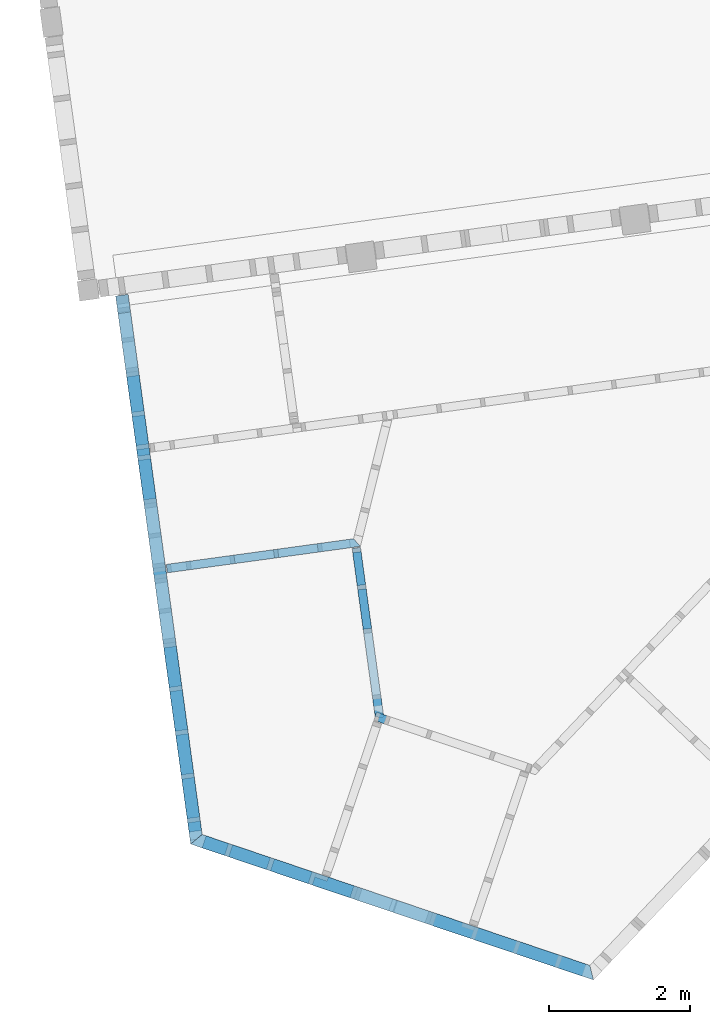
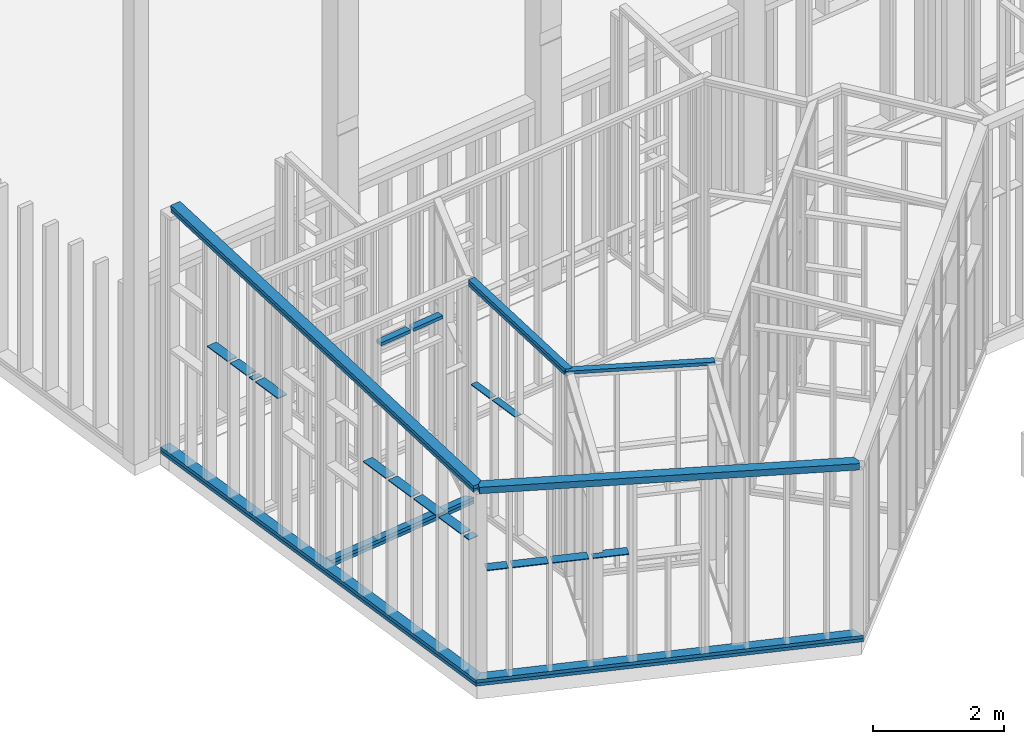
# One storey, part 16 of 24: 17 beams.
"""IFC2X3 building model written with IfcOpenShell, lengths in metres."""

from ifc_helpers import new_model, entity, si_unit, converted_unit, derived_unit, money_unit, direction, frame, frame_2d, origin_with_axes, place, context, subcontext, project, spatial, rectangle, extrude, boolean, clip, halfspace, faceted_brep, material, type_object, element, save


model = new_model("IFC2X3")

# Units and contexts
model_context = context("Model", 3, precision=1e-05, world=origin_with_axes(), true_north=direction((0.0, 1.0)))
body_context = subcontext(model_context, "Body", "Model", "MODEL_VIEW")
ifc_project = project(units=[si_unit("LENGTHUNIT", "METRE"), si_unit("AREAUNIT", "SQUARE_METRE"), si_unit("VOLUMEUNIT", "CUBIC_METRE"), converted_unit("PLANEANGLEUNIT", "DEGREE", entity("IfcPlaneAngleMeasure", 0.0174532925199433), si_unit("PLANEANGLEUNIT", "RADIAN"), dimensions=[0, 0, 0, 0, 0, 0, 0]), money_unit("EUR"), converted_unit("TIMEUNIT", "Year", entity("IfcTimeMeasure", 31557600.0), si_unit("TIMEUNIT", "SECOND"), dimensions=[0, 0, 1, 0, 0, 0, 0]), si_unit("MASSUNIT", "GRAM", prefix="KILO"), si_unit("THERMODYNAMICTEMPERATUREUNIT", "DEGREE_CELSIUS"), si_unit("LUMINOUSINTENSITYUNIT", "LUMEN"), si_unit("ENERGYUNIT", "JOULE", prefix="MEGA"), derived_unit("THERMALCONDUCTANCEUNIT", [(si_unit("POWERUNIT", "WATT"), 1), (si_unit("LENGTHUNIT", "METRE"), -1), (si_unit("THERMODYNAMICTEMPERATUREUNIT", "KELVIN"), -1)]), derived_unit("SPECIFICHEATCAPACITYUNIT", [(si_unit("ENERGYUNIT", "JOULE"), 1), (si_unit("MASSUNIT", "GRAM", prefix="KILO"), -1), (si_unit("THERMODYNAMICTEMPERATUREUNIT", "KELVIN"), -1)]), derived_unit("MASSDENSITYUNIT", [(si_unit("MASSUNIT", "GRAM", prefix="KILO"), 1), (si_unit("VOLUMEUNIT", "CUBIC_METRE"), -1)])], contexts=[model_context])

# Site, building, storey
site_placement = place(None, origin_with_axes())
site = spatial("IfcSite", under=ifc_project, at=site_placement, Name="Gelände", CompositionType="ELEMENT")
building_placement = place(site_placement, origin_with_axes())
building = spatial("IfcBuilding", under=site, at=building_placement, Name="Gebäude", CompositionType="ELEMENT")
storey_placement = place(building_placement, origin_with_axes())
storey = spatial("IfcBuildingStorey", under=building, at=storey_placement, Name="EG", CompositionType="ELEMENT", Elevation=0.0)

# Beams
ifc_material_1 = material(Name="Bauholz")
beam_type_1 = type_object("IfcBeamType", Name="Bauholz 120 x 60", PredefinedType="NOTDEFINED")
beam_1_placement = place(storey_placement, frame((90.38992757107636, -154.6670952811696, 4.059430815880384), z_axis=(0.0, 0.0, 1.0), x_axis=(-0.99074844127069, -0.1357111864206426, 0.0)))
element("IfcBeam", 1, at=beam_1_placement, inside=storey, type_object=beam_type_1, material=ifc_material_1, Name="Unterzug-021", context=body_context, shape_type="CSG", body=[
    boolean("DIFFERENCE", clip(clip(extrude(rectangle(XDim=0.06, YDim=0.12, at=frame_2d((-0.03, 0.0), x_axis=(1.0, 0.0))), frame((0.0, -0.02361845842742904, 0.003319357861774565), z_axis=(0.0, 0.9902680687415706, -0.1391731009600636), x_axis=(0.0, 0.1391731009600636, 0.9902680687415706)), (0.0, 0.0, 1.0), 2.505467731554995), halfspace(frame((0.0, 0.0, 0.0), z_axis=(0.0, 1.0, 0.0), x_axis=(0.0, 0.0, 1.0)), True)), halfspace(frame((0.0, 2.42759628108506, 0.0), z_axis=(0.0, -1.0, 0.0), x_axis=(0.0, 0.0, -1.0)), True)), faceted_brep([(-0.06000000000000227, 2.390431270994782, -0.3965428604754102), (-0.06000000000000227, 2.390431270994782, -0.3435029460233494), (-0.06000000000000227, 2.427596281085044, -0.3445392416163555), (-0.06000000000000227, 2.427596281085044, -0.4017660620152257), (0.03214141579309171, 2.34459069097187, -0.390100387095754), (0.02918027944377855, 2.346063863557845, -0.3372675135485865), (0.0, 2.427596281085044, -0.3411764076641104), (0.05590570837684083, 2.399783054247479, -0.3372675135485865), (0.06000000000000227, 2.427596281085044, -0.3411764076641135), (0.06000000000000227, 2.427596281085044, -0.4017660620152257), (0.06000000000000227, 2.393554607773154, -0.3969818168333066), (0.05759040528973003, 2.394753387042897, -0.3971502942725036), (0.06000000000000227, 2.399596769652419, -0.3971502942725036), (0.06000000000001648, 2.40785334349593, -0.338401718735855)], [[[0, 1, 2, 3]], [[1, 0, 4, 5]], [[6, 2, 1, 5, 7]], [[2, 6, 8, 9, 3]], [[4, 0, 3, 9, 10, 11]], [[4, 11, 12, 13, 7, 5]], [[7, 13, 8, 6]], [[12, 10, 9, 8, 13]], [[11, 10, 12]]])),
])
beam_2_placement = place(storey_placement, frame((90.39914309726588, -154.591619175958, -0.04300000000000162), z_axis=(0.0, 0.0, 1.0), x_axis=(-0.1357111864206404, 0.9907484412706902, 0.0)))
element("IfcBeam", 2, at=beam_2_placement, inside=storey, type_object=beam_type_1, material=ifc_material_1, Name="Unterzug-021", context=body_context, shape_type="CSG", body=[
    boolean("DIFFERENCE", extrude(rectangle(XDim=0.06, YDim=0.12, at=frame_2d((-0.03, 0.0), x_axis=(1.0, 0.0))), frame((0.0, -0.04064675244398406, 0.0), z_axis=(0.0, 1.0, 0.0), x_axis=(0.0, 0.0, 1.0)), (0.0, 0.0, 1.0), 2.758548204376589), faceted_brep([(0.06000000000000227, 0.04062676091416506, 0.0), (-0.05999999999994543, -0.04062675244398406, 0.0), (-0.06000000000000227, -0.04064675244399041, 0.0), (0.06000000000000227, -0.0406467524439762, 0.0), (-0.05999999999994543, -0.04062675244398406, -0.06), (0.06000000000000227, 0.04062676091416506, -0.06), (-0.06000000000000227, -0.04064675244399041, -0.06), (0.06000000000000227, -0.0406467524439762, -0.06)], [[[0, 1, 2, 3]], [[4, 1, 0, 5]], [[1, 4, 6, 2]], [[6, 7, 3, 2]], [[5, 0, 3, 7]], [[4, 5, 7, 6]]])),
])
beam_3_placement = place(storey_placement, frame((90.65844057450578, -157.0516642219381, 3.722280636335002), z_axis=(0.0, 0.0, 1.0), x_axis=(-0.3197980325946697, -0.9474857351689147, 0.0)))
element("IfcBeam", 3, at=beam_3_placement, inside=storey, type_object=beam_type_1, material=ifc_material_1, Name="Unterzug-021", context=body_context, shape_type="CSG", body=[
    boolean("DIFFERENCE", clip(clip(extrude(rectangle(XDim=0.06, YDim=0.12, at=frame_2d((-0.03, 0.0), x_axis=(1.0, 0.0))), frame((0.0, -0.01060285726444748, 0.0006637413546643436), z_axis=(0.0, 0.9980463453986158, -0.06247793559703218), x_axis=(0.0, 0.06247793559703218, 0.9980463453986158)), (0.0, 0.0, 1.0), 2.346247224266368), halfspace(frame((0.0, 0.0, 0.0), z_axis=(0.0, 1.0, 0.0), x_axis=(0.0, 0.0, 1.0)), True)), halfspace(frame((0.0, 2.320457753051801, 0.0), z_axis=(0.0, -1.0, 0.0), x_axis=(0.0, 0.0, -1.0)), True)), faceted_brep([(0.05999999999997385, 0.001874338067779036, -0.0001173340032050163), (-0.05999999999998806, 0.001874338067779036, -0.0001173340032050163), (-0.06000000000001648, 0.0, 0.0), (0.06000000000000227, 0.0, 0.0), (-0.05999999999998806, 0.0, -0.03005872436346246), (0.06000000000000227, 0.0, -0.03005872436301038)], [[[0, 1, 2, 3]], [[4, 1, 0, 5]], [[1, 4, 2]], [[4, 5, 3, 2]], [[5, 0, 3]]])),
])
beam_4_placement = place(storey_placement, frame((89.84384641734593, -154.6676828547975, 3.593823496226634), z_axis=(0.0, 0.0, 1.0), x_axis=(-0.1357111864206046, 0.9907484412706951, 0.0)))
element("IfcBeam", 4, at=beam_4_placement, inside=storey, type_object=beam_type_1, material=ifc_material_1, Name="Unterzug-021", context=body_context, shape_type="CSG", body=[
    boolean("DIFFERENCE", extrude(rectangle(XDim=0.06, YDim=0.12, at=frame_2d((-0.03, 0.0), x_axis=(1.0, 0.0))), frame((0.0, 0.0, 0.0), z_axis=(0.0, 1.0, 0.0), x_axis=(0.0, 0.0, 1.0)), (0.0, 0.0, 1.0), 1.190000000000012), faceted_brep([(-0.060000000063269, 0.5649999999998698, -0.06000000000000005), (-0.060000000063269, 0.5649999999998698, 0.0), (-0.06000000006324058, 0.6249999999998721, 0.0), (-0.06000000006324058, 0.6249999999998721, -0.06000000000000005), (0.05999999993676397, 0.5649999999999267, 0.0), (0.05999999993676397, 0.5649999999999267, -0.06000000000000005), (0.05999999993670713, 0.6249999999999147, 0.0), (0.05999999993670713, 0.6249999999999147, -0.06000000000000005)], [[[0, 1, 2, 3]], [[4, 1, 0, 5]], [[1, 4, 6, 2]], [[7, 3, 2, 6]], [[5, 0, 3, 7]], [[4, 5, 7, 6]]])),
])
beam_type_2 = type_object("IfcBeamType", Name="Bauholz 120 x 15", PredefinedType="NOTDEFINED")
beam_5_placement = place(storey_placement, frame((90.3982701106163, -154.7279993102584, 2.15), z_axis=(0.0, 0.0, 1.0), x_axis=(-0.9907484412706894, -0.1357111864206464, 0.0)))
element("IfcBeam", 5, at=beam_5_placement, inside=storey, type_object=beam_type_2, material=ifc_material_1, Name="Unterzug-021", context=body_context, shape_type="CSG", body=[
    boolean("DIFFERENCE", extrude(rectangle(XDim=0.015, YDim=0.12, at=frame_2d((-0.0075, 0.0), x_axis=(1.0, 0.0))), frame((0.0, 0.0, 0.0), z_axis=(0.0, 1.0, 0.0), x_axis=(0.0, 0.0, 1.0)), (0.0, 0.0, 1.0), 1.095387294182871), faceted_brep([(-0.0600000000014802, 0.4703872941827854, -0.01500000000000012), (-0.0600000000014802, 0.4703872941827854, 0.0), (-0.0600000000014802, 0.5303872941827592, 0.0), (-0.0600000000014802, 0.5303872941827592, -0.01499999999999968), (0.05999999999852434, 0.4703872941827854, 0.0), (0.05999999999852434, 0.4703872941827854, -0.01499999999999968), (0.05999999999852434, 0.5303872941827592, 0.0), (0.05999999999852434, 0.5303872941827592, -0.01500000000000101)], [[[0, 1, 2, 3]], [[4, 1, 0, 5]], [[1, 4, 6, 2]], [[7, 3, 2, 6]], [[5, 0, 3, 7]], [[4, 5, 7, 6]]])),
])
ifc_material_2 = material(Name="Holz, Bauholz")
beam_type_3 = type_object("IfcBeamType", Name="Holz, Bauholz 120 x 60", PredefinedType="NOTDEFINED")
beam_6_placement = place(storey_placement, frame((90.39914309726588, -154.591619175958, -0.1030000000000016), z_axis=(0.0, 0.0, 1.0), x_axis=(-0.1357111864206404, 0.9907484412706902, 0.0)))
element("IfcBeam", 6, at=beam_6_placement, inside=storey, type_object=beam_type_3, material=ifc_material_2, Name="Unterzug-021", context=body_context, shape_type="CSG", body=[
    boolean("DIFFERENCE", extrude(rectangle(XDim=0.06, YDim=0.12, at=frame_2d((-0.03, 0.0), x_axis=(1.0, 0.0))), frame((0.0, -0.04064675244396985, 0.0), z_axis=(0.0, 1.0, 0.0), x_axis=(0.0, 0.0, 1.0)), (0.0, 0.0, 1.0), 2.758548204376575), faceted_brep([(0.06000000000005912, 0.04062676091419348, 0.0), (-0.05999999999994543, -0.04062675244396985, 0.0), (-0.06000000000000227, -0.04064675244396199, 0.0), (0.06000000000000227, -0.04064675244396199, 0.0), (-0.05999999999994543, -0.04062675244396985, -0.06), (0.06000000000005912, 0.04062676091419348, -0.06), (-0.06000000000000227, -0.04064675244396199, -0.06), (0.06000000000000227, -0.04064675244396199, -0.06)], [[[0, 1, 2, 3]], [[4, 1, 0, 5]], [[1, 4, 6, 2]], [[6, 7, 3, 2]], [[5, 0, 3, 7]], [[4, 5, 7, 6]]])),
])
beam_7_placement = place(storey_placement, frame((90.39012743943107, -154.6685544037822, 3.998634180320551), z_axis=(0.0, 0.0, 1.0), x_axis=(-0.9907484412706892, -0.1357111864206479, 0.0)))
element("IfcBeam", 7, at=beam_7_placement, inside=storey, type_object=beam_type_3, material=ifc_material_2, Name="Unterzug-021", context=body_context, shape_type="CSG", body=[
    boolean("DIFFERENCE", clip(clip(extrude(rectangle(XDim=0.06, YDim=0.12, at=frame_2d((-0.03, 0.0), x_axis=(1.0, 0.0))), frame((0.0, -0.02361845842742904, 0.003319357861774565), z_axis=(0.0, 0.9902680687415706, -0.1391731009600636), x_axis=(0.0, 0.1391731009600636, 0.9902680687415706)), (0.0, 0.0, 1.0), 2.493434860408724), halfspace(frame((0.0, 0.0, 0.0), z_axis=(0.0, 1.0, 0.0), x_axis=(0.0, 0.0, 1.0)), True)), halfspace(frame((0.0, 2.421932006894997, 0.0), z_axis=(0.0, -1.0, 0.0), x_axis=(0.0, 0.0, -1.0)), True)), faceted_brep([(-0.05999999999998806, 2.388958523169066, -0.396335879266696), (-0.05999999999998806, 2.388958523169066, -0.3357462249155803), (-0.05999999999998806, 2.421932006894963, -0.3403803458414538), (-0.06000000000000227, 2.421932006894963, -0.400970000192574), (0.03214141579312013, 2.343117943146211, -0.3293037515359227), (0.03552404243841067, 2.341435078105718, -0.3896568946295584), (0.06000000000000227, 2.398030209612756, -0.3370211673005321), (0.06000000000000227, 2.421932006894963, -0.3403803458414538), (0.06000000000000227, 2.421932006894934, -0.3971349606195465), (-0.008425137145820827, 2.421932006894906, -0.4009700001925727), (0.0592751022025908, 2.388250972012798, -0.3962364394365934), (0.0600000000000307, 2.389708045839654, -0.3962364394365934)], [[[0, 1, 2, 3]], [[4, 1, 0, 5]], [[4, 6, 7, 2, 1]], [[8, 9, 3, 2, 7]], [[5, 0, 3, 9, 10]], [[6, 4, 5, 10, 11]], [[11, 8, 7, 6]], [[10, 9, 8, 11]]])),
])
beam_type_4 = type_object("IfcBeamType", Name="Bauholz 180 x 120", PredefinedType="NOTDEFINED")
beam_8_placement = place(storey_placement, frame((88.12547573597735, -158.7936743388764, 3.528033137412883), z_axis=(0.0, 0.0, 1.0), x_axis=(-0.3197975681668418, -0.947485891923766, 0.0)))
element("IfcBeam", 8, at=beam_8_placement, inside=storey, type_object=beam_type_4, material=ifc_material_1, Name="Unterzug-035", context=body_context, shape_type="CSG", body=[
    boolean("DIFFERENCE", boolean("DIFFERENCE", clip(clip(extrude(rectangle(XDim=0.12, YDim=0.18, at=frame_2d((-0.06, 0.0), x_axis=(1.0, 0.0))), frame((0.0, -0.0482701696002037, 0.003021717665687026), z_axis=(0.0, 0.998046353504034, -0.06247780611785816), x_axis=(0.0, 0.06247780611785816, 0.998046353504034)), (0.0, 0.0, 1.0), 6.033290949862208), halfspace(frame((0.0, 0.0, 0.0), z_axis=(0.0, 1.0, 0.0), x_axis=(0.0, 0.0, 1.0)), True)), halfspace(frame((0.0, 5.907932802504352, 0.0), z_axis=(0.0, -1.0, 0.0), x_axis=(0.0, 0.0, -1.0)), True)), faceted_brep([(0.01456642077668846, 0.0, 0.0), (-0.09000000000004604, 0.05574754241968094, -0.003489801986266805), (-0.08999999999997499, 0.0, 0.0), (-0.09000000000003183, 0.04021593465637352, -0.1227524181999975), (-0.01456642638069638, 0.0, -0.1202348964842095), (-0.08999999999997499, 0.0, -0.1202348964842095)], [[[0, 1, 2]], [[3, 1, 0, 4]], [[1, 3, 5, 2]], [[4, 0, 2, 5]], [[3, 4, 5]]])), faceted_brep([(0.0015697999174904, 5.907932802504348, -0.3698372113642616), (-0.001613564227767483, 5.907932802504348, -0.4900721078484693), (-0.08999999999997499, 5.907932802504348, -0.4900721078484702), (-0.0899999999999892, 5.907932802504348, -0.3698372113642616), (-0.09000000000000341, 5.852184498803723, -0.4865822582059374), (-0.08999999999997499, 5.85017664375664, -0.3662216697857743)], [[[0, 1, 2, 3]], [[4, 1, 0, 5]], [[1, 4, 2]], [[4, 5, 3, 2]], [[5, 0, 3]]])),
])
beam_type_5 = type_object("IfcBeamType", Name="Holz, Bauholz 180 x 60", PredefinedType="NOTDEFINED")
beam_9_placement = place(storey_placement, frame((87.10410828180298, -151.3372646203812, 4.585748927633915), z_axis=(0.0, 0.0, 1.0), x_axis=(-0.9907484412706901, -0.1357111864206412, 0.0)))
element("IfcBeam", 9, at=beam_9_placement, inside=storey, type_object=beam_type_5, material=ifc_material_2, Name="Unterzug-035", context=body_context, shape_type="CSG", body=[
    boolean("DIFFERENCE", clip(clip(extrude(rectangle(XDim=0.06, YDim=0.18, at=frame_2d((-0.03, 0.0), x_axis=(1.0, 0.0))), frame((0.0, -0.03542769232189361, 0.004979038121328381), z_axis=(0.0, 0.9902680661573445, -0.1391731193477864), x_axis=(0.0, 0.1391731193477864, 0.9902680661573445)), (0.0, 0.0, 1.0), 7.70724865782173), halfspace(frame((0.0, 0.0, 0.0), z_axis=(0.0, 1.0, 0.0), x_axis=(0.0, 0.0, 1.0)), True)), halfspace(frame((0.0, 7.526037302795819, 0.0), z_axis=(0.0, -1.0, 0.0), x_axis=(0.0, 0.0, -1.0)), True)), faceted_brep([(-0.09000000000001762, 7.463500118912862, -1.109516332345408), (-0.0899999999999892, 7.471850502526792, -1.050100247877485), (-0.0899999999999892, 7.526037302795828, -1.057715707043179), (-0.0899999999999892, 7.5260373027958, -1.118305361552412), (-0.011936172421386, 7.526037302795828, -1.057715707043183), (9.374821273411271e-05, 7.5260373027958, -1.118305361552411)], [[[0, 1, 2, 3]], [[4, 1, 0, 5]], [[1, 4, 2]], [[4, 5, 3, 2]], [[5, 0, 3]]])),
])
beam_10_placement = place(storey_placement, frame((88.12547229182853, -158.793672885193, -0.1030000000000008), z_axis=(0.0, 0.0, 1.0), x_axis=(-0.3197976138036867, -0.9474858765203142, 0.0)))
element("IfcBeam", 10, at=beam_10_placement, inside=storey, type_object=beam_type_5, material=ifc_material_2, Name="Unterzug-021", context=body_context, shape_type="CSG", body=[
    boolean("DIFFERENCE", boolean("DIFFERENCE", extrude(rectangle(XDim=0.06, YDim=0.18, at=frame_2d((-0.03, 0.0), x_axis=(1.0, 0.0))), frame((0.0, -0.0557675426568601, 0.0), z_axis=(0.0, 1.0, 0.0), x_axis=(0.0, 0.0, 1.0)), (0.0, 0.0, 1.0), 6.021307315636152), faceted_brep([(0.09000000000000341, -0.05574754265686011, 0.0), (-0.09000000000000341, 0.05574754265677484, 0.0), (-0.09000000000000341, -0.05576754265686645, 0.0), (0.0899999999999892, -0.05576754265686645, 0.0), (-0.09000000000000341, 0.05574754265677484, -0.05999999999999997), (0.09000000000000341, -0.05574754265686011, -0.06000000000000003), (-0.09000000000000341, -0.05576754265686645, -0.06), (0.0899999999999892, -0.05576754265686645, -0.06)], [[[0, 1, 2, 3]], [[4, 1, 0, 5]], [[1, 4, 6, 2]], [[6, 7, 3, 2]], [[5, 0, 3, 7]], [[4, 5, 7, 6]]])), faceted_brep([(-0.09000000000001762, 5.850353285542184, 0.0), (0.09000000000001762, 5.965519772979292, 0.0), (0.09000000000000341, 5.965539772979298, 0.0), (-0.09000000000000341, 5.965539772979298, 0.0), (0.09000000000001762, 5.965519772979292, -0.06000000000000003), (-0.09000000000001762, 5.850353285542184, -0.05999999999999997), (0.09000000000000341, 5.965539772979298, -0.06), (-0.09000000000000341, 5.965539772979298, -0.06)], [[[0, 1, 2, 3]], [[4, 1, 0, 5]], [[1, 4, 6, 2]], [[2, 6, 7, 3]], [[5, 0, 3, 7]], [[4, 5, 7, 6]]])),
])
beam_11_placement = place(storey_placement, frame((87.06994476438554, -151.087880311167, -0.1030000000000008), z_axis=(0.0, 0.0, 1.0), x_axis=(-0.9907484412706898, -0.135711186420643, 0.0)))
element("IfcBeam", 11, at=beam_11_placement, inside=storey, type_object=beam_type_5, material=ifc_material_2, Name="Unterzug-021", context=body_context, shape_type="CSG", body=[
    boolean("DIFFERENCE", extrude(rectangle(XDim=0.06, YDim=0.18, at=frame_2d((-0.03, 0.0), x_axis=(1.0, 0.0))), frame((0.0, 0.0, 0.0), z_axis=(0.0, 1.0, 0.0), x_axis=(0.0, 0.0, 1.0)), (0.0, 0.0, 1.0), 7.833516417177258), faceted_brep([(-0.09000000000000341, 7.722001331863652, -0.05999999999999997), (-0.09000000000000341, 7.722001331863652, 0.0), (-0.09000000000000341, 7.833516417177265, 0.0), (-0.09000000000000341, 7.833516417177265, -0.06), (0.09000000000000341, 7.833496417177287, 0.0), (0.09000000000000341, 7.833496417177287, -0.06000000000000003), (0.09000000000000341, 7.833516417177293, 0.0), (0.09000000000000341, 7.833516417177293, -0.06)], [[[0, 1, 2, 3]], [[4, 1, 0, 5]], [[1, 4, 6, 2]], [[6, 7, 3, 2]], [[5, 0, 3, 7]], [[4, 5, 7, 6]]])),
])
beam_type_6 = type_object("IfcBeamType", Name="Bauholz 180 x 60", PredefinedType="NOTDEFINED")
beam_12_placement = place(storey_placement, frame((88.12547229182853, -158.793672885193, -0.04300000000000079), z_axis=(0.0, 0.0, 1.0), x_axis=(-0.3197976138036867, -0.9474858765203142, 0.0)))
element("IfcBeam", 12, at=beam_12_placement, inside=storey, type_object=beam_type_6, material=ifc_material_1, Name="Unterzug-021", context=body_context, shape_type="CSG", body=[
    boolean("DIFFERENCE", boolean("DIFFERENCE", extrude(rectangle(XDim=0.06, YDim=0.18, at=frame_2d((-0.03, 0.0), x_axis=(1.0, 0.0))), frame((0.0, -0.0557675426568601, 0.0), z_axis=(0.0, 1.0, 0.0), x_axis=(0.0, 0.0, 1.0)), (0.0, 0.0, 1.0), 6.021307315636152), faceted_brep([(0.09000000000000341, -0.05574754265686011, 0.0), (-0.09000000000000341, 0.05574754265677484, 0.0), (-0.09000000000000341, -0.05576754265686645, 0.0), (0.0899999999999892, -0.05576754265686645, 0.0), (-0.09000000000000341, 0.05574754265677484, -0.05999999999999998), (0.09000000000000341, -0.05574754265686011, -0.06000000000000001), (-0.09000000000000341, -0.05576754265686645, -0.06), (0.0899999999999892, -0.05576754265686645, -0.06)], [[[0, 1, 2, 3]], [[4, 1, 0, 5]], [[1, 4, 6, 2]], [[6, 7, 3, 2]], [[5, 0, 3, 7]], [[4, 5, 7, 6]]])), faceted_brep([(-0.09000000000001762, 5.850353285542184, 0.0), (0.09000000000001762, 5.965519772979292, 0.0), (0.09000000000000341, 5.965539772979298, 0.0), (-0.09000000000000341, 5.965539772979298, 0.0), (0.09000000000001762, 5.965519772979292, -0.06000000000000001), (-0.09000000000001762, 5.850353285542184, -0.05999999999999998), (0.09000000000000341, 5.965539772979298, -0.06), (-0.09000000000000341, 5.965539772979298, -0.06)], [[[0, 1, 2, 3]], [[4, 1, 0, 5]], [[1, 4, 6, 2]], [[2, 6, 7, 3]], [[5, 0, 3, 7]], [[4, 5, 7, 6]]])),
])
beam_13_placement = place(storey_placement, frame((87.06994476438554, -151.087880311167, -0.04300000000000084), z_axis=(0.0, 0.0, 1.0), x_axis=(-0.99074844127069, -0.1357111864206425, 0.0)))
element("IfcBeam", 13, at=beam_13_placement, inside=storey, type_object=beam_type_6, material=ifc_material_1, Name="Unterzug-021", context=body_context, shape_type="CSG", body=[
    boolean("DIFFERENCE", extrude(rectangle(XDim=0.06, YDim=0.18, at=frame_2d((-0.03, 0.0), x_axis=(1.0, 0.0))), frame((0.0, 0.0, 0.0), z_axis=(0.0, 1.0, 0.0), x_axis=(0.0, 0.0, 1.0)), (0.0, 0.0, 1.0), 7.83351641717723), faceted_brep([(-0.08999999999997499, 7.722001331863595, -0.05999999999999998), (-0.08999999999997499, 7.722001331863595, 0.0), (-0.09000000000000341, 7.833516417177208, 0.0), (-0.09000000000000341, 7.833516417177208, -0.06), (0.09000000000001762, 7.83349641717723, 0.0), (0.09000000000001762, 7.83349641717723, -0.06000000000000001), (0.09000000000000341, 7.833516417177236, 0.0), (0.09000000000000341, 7.833516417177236, -0.06)], [[[0, 1, 2, 3]], [[4, 1, 0, 5]], [[1, 4, 6, 2]], [[6, 7, 3, 2]], [[5, 0, 3, 7]], [[4, 5, 7, 6]]])),
])
ifc_material_3 = material(Name="Holz, Bauholz-hart")
beam_type_7 = type_object("IfcBeamType", Name="Holz, Bauholz-hart 180 x 60", PredefinedType="NOTDEFINED")
beam_14_placement = place(storey_placement, frame((87.10428287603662, -151.3385392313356, 4.524978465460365), z_axis=(0.0, 0.0, 1.0), x_axis=(-0.99074844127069, -0.1357111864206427, 0.0)))
element("IfcBeam", 14, at=beam_14_placement, inside=storey, type_object=beam_type_7, material=ifc_material_3, Name="Unterzug-035", context=body_context, shape_type="CSG", body=[
    boolean("DIFFERENCE", clip(clip(extrude(rectangle(XDim=0.06, YDim=0.18, at=frame_2d((-0.03, 0.0), x_axis=(1.0, 0.0))), frame((0.0, -0.03542769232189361, 0.004979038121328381), z_axis=(0.0, 0.9902680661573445, -0.1391731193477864), x_axis=(0.0, 0.1391731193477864, 0.9902680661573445)), (0.0, 0.0, 1.0), 7.705949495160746), halfspace(frame((0.0, 0.0, 0.0), z_axis=(0.0, 1.0, 0.0), x_axis=(0.0, 0.0, 1.0)), True)), halfspace(frame((0.0, 7.524750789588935, 0.0), z_axis=(0.0, -1.0, 0.0), x_axis=(0.0, 0.0, -1.0)), True)), faceted_brep([(-0.0899999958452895, 7.469003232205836, -1.110289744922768), (-0.08999999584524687, 7.469003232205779, -1.049700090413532), (-0.0899999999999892, 7.524750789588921, -1.057534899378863), (-0.0899999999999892, 7.524750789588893, -1.118124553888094), (-0.08430226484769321, 7.466168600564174, -1.049301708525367), (-0.07729477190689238, 7.462682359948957, -1.109401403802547), (9.374821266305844e-05, 7.524750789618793, -1.057534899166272), (0.06226549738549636, 7.524750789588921, -1.113690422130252), (0.04656907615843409, 7.524750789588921, -1.118124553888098), (0.01180481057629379, 7.524750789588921, -1.116518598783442), (0.04656907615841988, 7.493200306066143, -1.11369042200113), (2.780999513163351e-05, 7.51635463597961, -1.116944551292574)], [[[0, 1, 2, 3]], [[4, 1, 0, 5]], [[4, 6, 2, 1]], [[7, 8, 3, 2, 6, 9]], [[5, 0, 3, 8, 10, 11]], [[6, 4, 5, 11, 9]], [[10, 8, 7]], [[11, 10, 7, 9]]])),
])
beam_type_8 = type_object("IfcBeamType", Name="Bauholz 180 x 15", PredefinedType="NOTDEFINED")
beam_15_placement = place(storey_placement, frame((87.75265796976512, -156.0719723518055, 2.471999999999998), z_axis=(0.0, 0.0, 1.0), x_axis=(-0.9907484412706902, -0.1357111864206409, 0.0)))
element("IfcBeam", 15, at=beam_15_placement, inside=storey, type_object=beam_type_8, material=ifc_material_1, Name="Unterzug-021", context=body_context, shape_type="CSG", body=[
    boolean("DIFFERENCE", boolean("DIFFERENCE", boolean("DIFFERENCE", boolean("DIFFERENCE", extrude(rectangle(XDim=0.015, YDim=0.18, at=frame_2d((-0.0075, 0.0), x_axis=(1.0, 0.0))), frame((0.0, 0.0, 0.0), z_axis=(0.0, 1.0, 0.0), x_axis=(0.0, 0.0, 1.0)), (0.0, 0.0, 1.0), 2.631368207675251), faceted_brep([(0.08999996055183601, 2.499999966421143, 0.0), (-0.09000003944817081, 2.499999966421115, 0.0), (-0.09000003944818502, 2.439999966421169, 0.0), (0.08999996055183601, 2.439999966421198, 0.0), (-0.09000003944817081, 2.499999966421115, -0.01500000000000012), (0.08999996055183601, 2.499999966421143, -0.01500000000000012), (-0.09000003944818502, 2.439999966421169, -0.01500000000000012), (0.08999996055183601, 2.439999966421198, -0.01500000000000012)], [[[0, 1, 2, 3]], [[4, 1, 0, 5]], [[1, 4, 6, 2]], [[7, 3, 2, 6]], [[5, 0, 3, 7]], [[4, 5, 7, 6]]])), faceted_brep([(-0.08999997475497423, 0.5649999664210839, -0.01500000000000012), (-0.08999997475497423, 0.5649999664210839, 0.0), (-0.08999997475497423, 0.6249999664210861, 0.0), (-0.08999997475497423, 0.6249999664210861, -0.01500000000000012), (0.09000002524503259, 0.5649999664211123, 0.0), (0.09000002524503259, 0.5649999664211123, -0.01500000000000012), (0.09000002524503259, 0.6249999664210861, 0.0), (0.09000002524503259, 0.6249999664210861, -0.01500000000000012)], [[[0, 1, 2, 3]], [[4, 1, 0, 5]], [[1, 4, 6, 2]], [[7, 3, 2, 6]], [[5, 0, 3, 7]], [[4, 5, 7, 6]]])), faceted_brep([(-0.08999997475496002, 1.189999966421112, -0.01500000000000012), (-0.08999997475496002, 1.189999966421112, 0.0), (-0.08999997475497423, 1.249999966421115, 0.0), (-0.08999997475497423, 1.249999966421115, -0.01500000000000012), (0.09000002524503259, 1.189999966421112, 0.0), (0.09000002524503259, 1.189999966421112, -0.01500000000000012), (0.09000002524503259, 1.249999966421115, 0.0), (0.09000002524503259, 1.249999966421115, -0.01500000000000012)], [[[0, 1, 2, 3]], [[4, 1, 0, 5]], [[1, 4, 6, 2]], [[7, 3, 2, 6]], [[5, 0, 3, 7]], [[4, 5, 7, 6]]])), faceted_brep([(0.08999996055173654, 1.874999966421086, 0.0), (-0.09000003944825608, 1.874999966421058, 0.0), (-0.09000003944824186, 1.814999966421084, 0.0), (0.08999996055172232, 1.814999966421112, 0.0), (-0.09000003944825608, 1.874999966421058, -0.01500000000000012), (0.08999996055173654, 1.874999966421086, -0.01500000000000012), (-0.09000003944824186, 1.814999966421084, -0.01500000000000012), (0.08999996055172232, 1.814999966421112, -0.01500000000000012)], [[[0, 1, 2, 3]], [[4, 1, 0, 5]], [[1, 4, 6, 2]], [[7, 3, 2, 6]], [[5, 0, 3, 7]], [[4, 5, 7, 6]]])),
])
beam_16_placement = place(storey_placement, frame((88.23514134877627, -158.8306886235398, 1.971999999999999), z_axis=(0.0, 0.0, 1.0), x_axis=(-0.319797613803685, -0.9474858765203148, 0.0)))
element("IfcBeam", 16, at=beam_16_placement, inside=storey, type_object=beam_type_8, material=ifc_material_1, Name="Unterzug-021", context=body_context, shape_type="CSG", body=[
    boolean("DIFFERENCE", boolean("DIFFERENCE", boolean("DIFFERENCE", extrude(rectangle(XDim=0.015, YDim=0.18, at=frame_2d((-0.0075, 0.0), x_axis=(1.0, 0.0))), frame((0.0, 0.0, 0.0), z_axis=(0.0, 1.0, 0.0), x_axis=(0.0, 0.0, 1.0)), (0.0, 0.0, 1.0), 2.210524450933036), faceted_brep([(-0.03000027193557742, 1.645524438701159, 0.0), (-0.03000026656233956, 1.825524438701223, 0.0), (-0.09000026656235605, 1.825524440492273, 0.0), (-0.09000026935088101, 1.585524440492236, 0.0), (0.08999973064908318, 1.585524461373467, 0.0), (0.08999972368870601, 1.645524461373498, 0.0), (-0.03000027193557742, 1.645524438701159, -0.01500000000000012), (-0.03000026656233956, 1.825524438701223, -0.01500000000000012), (-0.09000026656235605, 1.825524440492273, -0.01500000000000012), (-0.09000026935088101, 1.585524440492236, -0.0149999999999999), (0.08999973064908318, 1.585524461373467, -0.01500000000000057), (0.08999972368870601, 1.645524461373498, -0.01500000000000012)], [[[0, 1, 2, 3, 4, 5]], [[1, 0, 6, 7]], [[8, 2, 1, 7]], [[2, 8, 9, 3]], [[10, 4, 3, 9]], [[11, 5, 4, 10]], [[0, 5, 11, 6]], [[6, 11, 10, 9, 8, 7]]])), faceted_brep([(0.0899997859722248, 1.020524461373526, 0.0), (-0.0900002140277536, 1.020524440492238, 0.0), (-0.09000020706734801, 0.960524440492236, 0.0), (0.08999979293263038, 0.9605244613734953, 0.0), (-0.0900002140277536, 1.020524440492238, -0.0149999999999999), (0.0899997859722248, 1.020524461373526, -0.01500000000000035), (-0.09000020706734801, 0.960524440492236, -0.0149999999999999), (0.08999979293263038, 0.9605244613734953, -0.01500000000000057)], [[[0, 1, 2, 3]], [[4, 1, 0, 5]], [[1, 4, 6, 2]], [[7, 3, 2, 6]], [[5, 0, 3, 7]], [[4, 5, 7, 6]]])), faceted_brep([(0.08999984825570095, 0.3955244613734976, 0.0), (-0.09000015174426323, 0.3955244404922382, 0.0), (-0.09000014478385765, 0.335524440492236, 0.0), (0.08999985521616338, 0.3355244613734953, 0.0), (-0.09000015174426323, 0.3955244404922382, -0.0149999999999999), (0.08999984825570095, 0.3955244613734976, -0.01500000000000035), (-0.09000014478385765, 0.335524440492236, -0.0149999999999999), (0.08999985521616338, 0.3355244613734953, -0.01500000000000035)], [[[0, 1, 2, 3]], [[4, 1, 0, 5]], [[1, 4, 6, 2]], [[7, 3, 2, 6]], [[5, 0, 3, 7]], [[4, 5, 7, 6]]])),
])
beam_17_placement = place(storey_placement, frame((87.22700151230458, -152.2344602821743, 2.471999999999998), z_axis=(0.0, 0.0, 1.0), x_axis=(-0.9907484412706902, -0.1357111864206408, 0.0)))
element("IfcBeam", 17, at=beam_17_placement, inside=storey, type_object=beam_type_8, material=ifc_material_1, Name="Unterzug-021", context=body_context, shape_type="CSG", body=[
    boolean("DIFFERENCE", boolean("DIFFERENCE", boolean("DIFFERENCE", extrude(rectangle(XDim=0.015, YDim=0.18, at=frame_2d((-0.0075, 0.0), x_axis=(1.0, 0.0))), frame((0.0, 0.0, 0.0), z_axis=(0.0, 1.0, 0.0), x_axis=(0.0, 0.0, 1.0)), (0.0, 0.0, 1.0), 1.758346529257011), faceted_brep([(-0.09000003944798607, 0.5083465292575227, -0.01500000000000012), (-0.09000003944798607, 0.5083465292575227, 0.0), (-0.09000003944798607, 0.5683465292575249, 0.0), (-0.09000003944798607, 0.5683465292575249, -0.01500000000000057), (0.08999996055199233, 0.5083465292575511, 0.0), (0.08999996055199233, 0.5083465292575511, -0.01500000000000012), (0.08999996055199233, 0.5683465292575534, 0.0), (0.08999996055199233, 0.5683465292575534, -0.01500000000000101)], [[[0, 1, 2, 3]], [[4, 1, 0, 5]], [[1, 4, 6, 2]], [[7, 3, 2, 6]], [[5, 0, 3, 7]], [[4, 5, 7, 6]]])), faceted_brep([(-0.09000003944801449, 0.9808465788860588, -0.01500000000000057), (-0.09000003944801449, 0.9808465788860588, 0.0), (-0.09000003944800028, 1.040846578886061, 0.0), (-0.09000003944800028, 1.040846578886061, -0.01500000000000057), (0.08999996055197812, 0.9808465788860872, 0.0), (0.08999996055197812, 0.9808465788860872, -0.01500000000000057), (0.08999996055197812, 1.040846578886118, 0.0), (0.08999996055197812, 1.040846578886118, -0.01500000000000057)], [[[0, 1, 2, 3]], [[4, 1, 0, 5]], [[1, 4, 6, 2]], [[7, 3, 2, 6]], [[5, 0, 3, 7]], [[4, 5, 7, 6]]])), faceted_brep([(0.08999996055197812, 1.193346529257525, 0.0), (-0.09000003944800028, 1.193346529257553, 0.0), (-0.09000003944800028, 1.133346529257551, 0.0), (0.08999996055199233, 1.133346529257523, 0.0), (-0.09000003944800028, 1.193346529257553, -0.01500000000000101), (0.08999996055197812, 1.193346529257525, -0.01500000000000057), (-0.09000003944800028, 1.133346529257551, -0.01500000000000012), (0.08999996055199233, 1.133346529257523, -0.01500000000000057)], [[[0, 1, 2, 3]], [[4, 1, 0, 5]], [[1, 4, 6, 2]], [[7, 3, 2, 6]], [[5, 0, 3, 7]], [[4, 5, 7, 6]]])),
])

save(model, "model.ifc")
